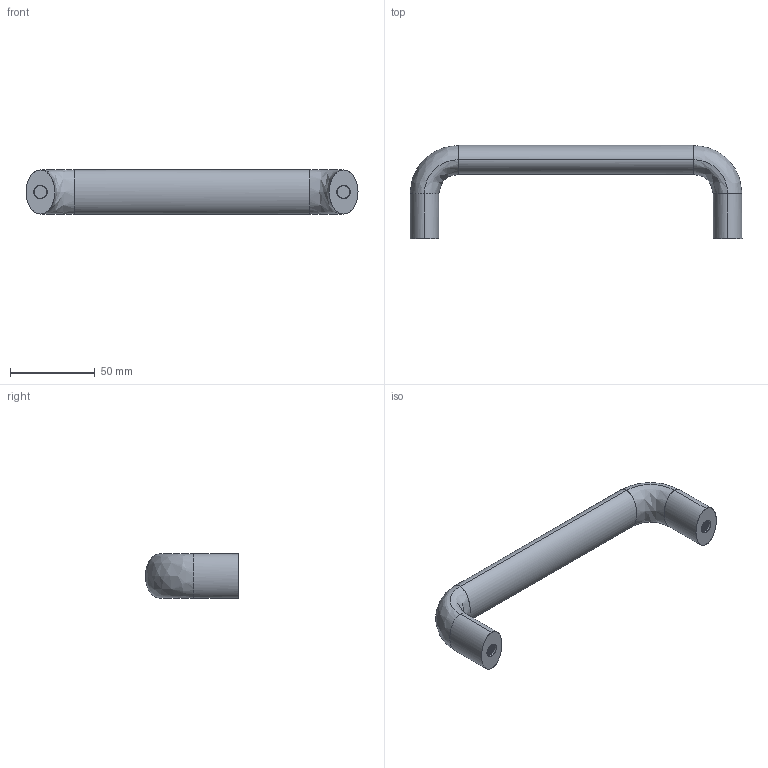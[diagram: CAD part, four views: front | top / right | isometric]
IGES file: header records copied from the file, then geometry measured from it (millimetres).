
Start section: SolidWorks IGES file using analytic representation for surfaces
Global section: file name: C:\Documents and Settings\Deathkiller\桌面\3D IGES\U型把手\MS-740\26\p=179.IGS; native system: SolidWorks 2006 by SolidWorks Corporation; preprocessor: SolidWorks 2006 by SolidWorks Corporation; author: Deathkiller; date: 080624.172603; units: millimetre
Bounding box: 196 x 54.99 x 26 mm (x, y, z)
Surface area: 18813.3 mm2 (no closed solid volume)
Topology: 0 solids, 0 shells, 70 faces, 1626 edges, 1626 vertices
Faces by surface type: revolution 48, bspline 22
